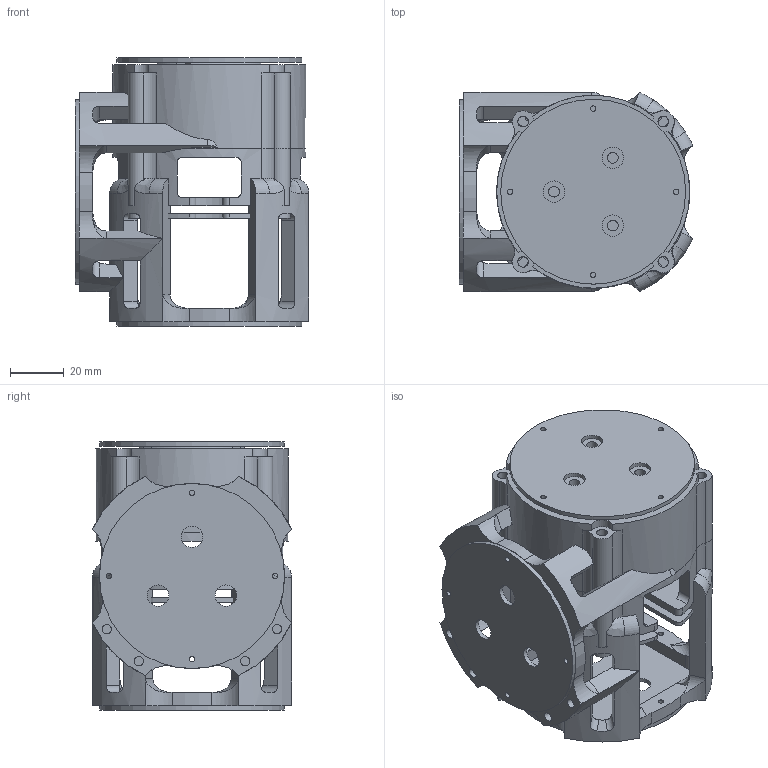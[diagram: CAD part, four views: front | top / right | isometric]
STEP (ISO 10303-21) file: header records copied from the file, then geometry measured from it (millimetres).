
FILE_DESCRIPTION(/* description */ (''),/* implementation_level */ '2;1');
FILE_NAME(/* name */ 'active.step',/* time_stamp */ '2024-10-03T13:56:47-04:00',/* author */ (''),/* organization */ (''),/* preprocessor_version */ 'ST-DEVELOPER v20',/* originating_system */ 'Autodesk Translation Framework v13.20.0.188',/* authorisation */ '');
FILE_SCHEMA (('AUTOMOTIVE_DESIGN { 1 0 10303 214 3 1 1 }'));
Products named in the file (3): motor_module_mockups; double_reduction_flatter; module_longer_0
Assembly tree (2 placements, depth 2):
  motor_module_mockups
    double_reduction_flatter
    module_longer_0
Bounding box: 87.16 x 74.32 x 100 mm (x, y, z)
Volume: 165333.3 mm3; surface area: 116351.9 mm2
Topology: 13 solids, 13 shells, 6911 faces, 20598 edges, 13719 vertices
Faces by surface type: plane 6293, cylinder 569, torus 24, bspline 16, cone 9
Full cylindrical faces by diameter (mm): 2 x26, 3 x17, 3.5 x9, 4 x25, 5 x6, 5.3 x2, 6 x2, 8 x9, 12 x1, 44 x1, 50 x1, 60 x1, 62 x1, 69 x3
Entity records: 231390 total; most frequent: CARTESIAN_POINT 44643, ORIENTED_EDGE 41196, DIRECTION 35252, EDGE_CURVE 20598, LINE 19224, VECTOR 19224, VERTEX_POINT 13719, AXIS2_PLACEMENT_3D 8014
